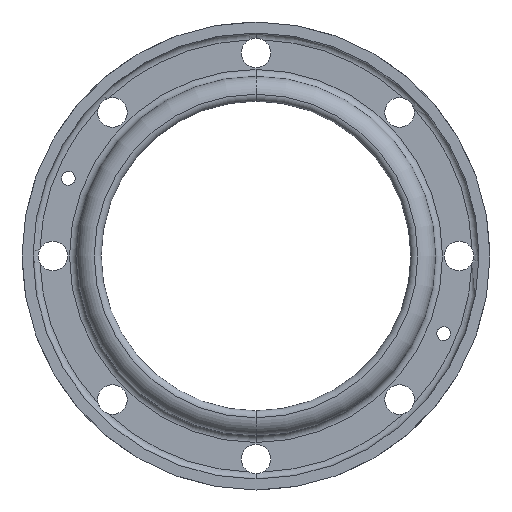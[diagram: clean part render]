
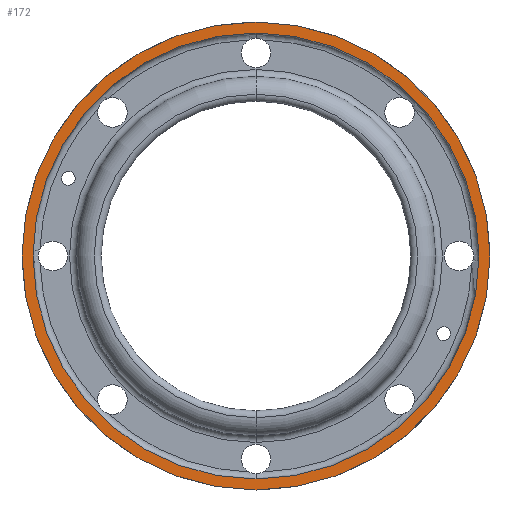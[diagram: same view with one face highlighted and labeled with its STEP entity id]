
A CAD part, front view. The second image highlights one B-rep face of the part: STEP entity #172.
In plain terms, the highlighted planar face has unit normal (0, -1, 0).
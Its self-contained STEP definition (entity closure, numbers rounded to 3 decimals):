
#172=ADVANCED_FACE('',(#343,#344),#345,.T.);
#343=FACE_OUTER_BOUND('',#510,.T.);
#344=FACE_BOUND('',#511,.T.);
#345=PLANE('',#512);
#510=EDGE_LOOP('',(#987,#988));
#511=EDGE_LOOP('',(#989,#990));
#512=AXIS2_PLACEMENT_3D('',#991,#992,#993);
#987=ORIENTED_EDGE('',*,*,#1154,.F.);
#988=ORIENTED_EDGE('',*,*,#1304,.F.);
#989=ORIENTED_EDGE('',*,*,#1305,.T.);
#990=ORIENTED_EDGE('',*,*,#1102,.T.);
#991=CARTESIAN_POINT('',(-360.859,-10.145,0.0));
#992=DIRECTION('',(0.0,-1.0,-0.0));
#993=DIRECTION('',(1.0,0.0,0.0));
#1102=EDGE_CURVE('',#1331,#1328,#1332,.T.);
#1154=EDGE_CURVE('',#1417,#1420,#1421,.T.);
#1304=EDGE_CURVE('',#1420,#1417,#1648,.T.);
#1305=EDGE_CURVE('',#1328,#1331,#1649,.T.);
#1328=VERTEX_POINT('',#1673);
#1331=VERTEX_POINT('',#1677);
#1332=CIRCLE('',#1678,162.0);
#1417=VERTEX_POINT('',#1770);
#1420=VERTEX_POINT('',#1774);
#1421=CIRCLE('',#1775,170.0);
#1648=CIRCLE('',#3331,170.0);
#1649=CIRCLE('',#3332,162.0);
#1673=CARTESIAN_POINT('',(-356.859,-10.145,0.0));
#1677=CARTESIAN_POINT('',(-32.859,-10.145,0.));
#1678=AXIS2_PLACEMENT_3D('',#3356,#3357,#3358);
#1770=CARTESIAN_POINT('',(-364.859,-10.145,0.0));
#1774=CARTESIAN_POINT('',(-24.859,-10.145,0.));
#1775=AXIS2_PLACEMENT_3D('',#3469,#3470,#3471);
#3331=AXIS2_PLACEMENT_3D('',#3700,#3701,#3702);
#3332=AXIS2_PLACEMENT_3D('',#3703,#3704,#3705);
#3356=CARTESIAN_POINT('',(-194.859,-10.145,0.0));
#3357=DIRECTION('',(0.0,1.0,0.0));
#3358=DIRECTION('',(-1.0,0.0,0.0));
#3469=CARTESIAN_POINT('',(-194.859,-10.145,0.0));
#3470=DIRECTION('',(0.0,1.0,0.0));
#3471=DIRECTION('',(-1.0,0.0,0.0));
#3700=CARTESIAN_POINT('',(-194.859,-10.145,0.0));
#3701=DIRECTION('',(0.0,1.0,0.0));
#3702=DIRECTION('',(-1.0,0.0,0.0));
#3703=CARTESIAN_POINT('',(-194.859,-10.145,0.0));
#3704=DIRECTION('',(0.0,1.0,0.0));
#3705=DIRECTION('',(-1.0,0.0,0.0));
